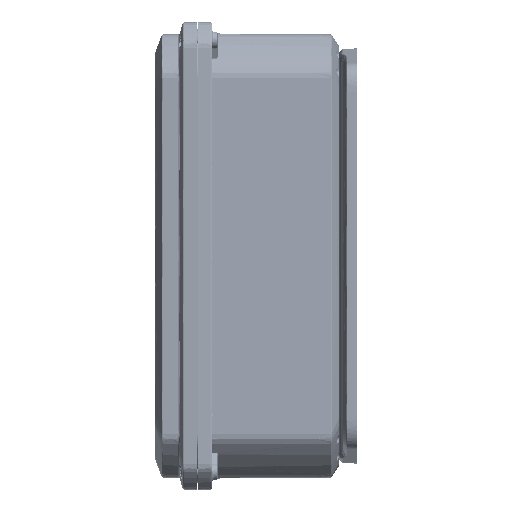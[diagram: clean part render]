
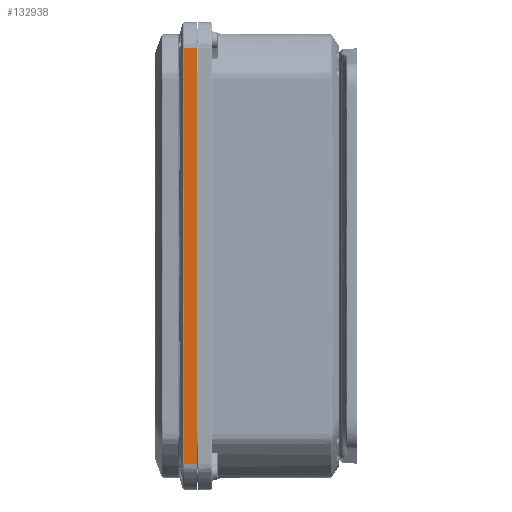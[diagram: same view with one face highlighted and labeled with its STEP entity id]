
A CAD part, left-side view. The second image highlights one B-rep face of the part: STEP entity #132938.
In plain terms, the highlighted planar face has unit normal (-0.999, 0.035, 0).
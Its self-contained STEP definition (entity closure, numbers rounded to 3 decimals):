
#1343 = CARTESIAN_POINT ( 'NONE',  ( -7.607, 0.363, 5.829 ) ) ;
#1442 = EDGE_CURVE ( 'NONE', #248380, #72285, #204699, .T. ) ;
#5534 = ORIENTED_EDGE ( 'NONE', *, *, #1442, .T. ) ;
#7018 = VECTOR ( 'NONE', #97036, 39.37 ) ;
#14049 = CARTESIAN_POINT ( 'NONE',  ( -7.62, 0., -5.89 ) ) ;
#14747 = CARTESIAN_POINT ( 'NONE',  ( -7.607, 0.363, -5.829 ) ) ;
#18008 = CARTESIAN_POINT ( 'NONE',  ( -7.62, 0., -5.89 ) ) ;
#18993 = VERTEX_POINT ( 'NONE', #59589 ) ;
#22093 = CARTESIAN_POINT ( 'NONE',  ( -7.607, 0.363, 0.982 ) ) ;
#23435 = CARTESIAN_POINT ( 'NONE',  ( -7.607, 0.363, 0. ) ) ;
#30098 = CARTESIAN_POINT ( 'NONE',  ( -7.607, 0.363, -0.982 ) ) ;
#31740 = B_SPLINE_CURVE_WITH_KNOTS ( 'NONE', 3,
 ( #74101, #191999, #239872, #1343, #242610, #212712, #238555, #255498, #52035, #112867, #211350, #22093, #23435 ),
 .UNSPECIFIED., .F., .F.,
 ( 4, 2, 1, 1, 1, 1, 1, 2, 4 ),
 ( 0., 0.001, 0.002, 0.005, 0.009, 0.019, 0.037, 0.075, 0.15 ),
 .UNSPECIFIED. ) ;
#32789 = CARTESIAN_POINT ( 'NONE',  ( -7.607, 0.363, -5.875 ) ) ;
#44514 = LINE ( 'NONE', #109484, #51443 ) ;
#51443 = VECTOR ( 'NONE', #271142, 39.37 ) ;
#52035 = CARTESIAN_POINT ( 'NONE',  ( -7.607, 0.363, 4.172 ) ) ;
#56748 = DIRECTION ( 'NONE',  ( -0.035, -0.999, 0. ) ) ;
#59589 = CARTESIAN_POINT ( 'NONE',  ( -7.607, 0.363, 5.89 ) ) ;
#66162 = EDGE_CURVE ( 'NONE', #216906, #248380, #171419, .T. ) ;
#72285 = VERTEX_POINT ( 'NONE', #218167 ) ;
#72902 = CARTESIAN_POINT ( 'NONE',  ( -7.607, 0.363, -4.663 ) ) ;
#74101 = CARTESIAN_POINT ( 'NONE',  ( -7.607, 0.363, 5.89 ) ) ;
#76966 = CARTESIAN_POINT ( 'NONE',  ( -7.607, 0.363, -5.676 ) ) ;
#79461 = CARTESIAN_POINT ( 'NONE',  ( -7.607, 0.363, -5.89 ) ) ;
#80356 = ORIENTED_EDGE ( 'NONE', *, *, #243908, .T. ) ;
#82891 = PLANE ( 'NONE',  #132419 ) ;
#96362 = CARTESIAN_POINT ( 'NONE',  ( -7.607, 0.363, -3.927 ) ) ;
#97036 = DIRECTION ( 'NONE',  ( -0.035, -0.999, 0. ) ) ;
#109484 = CARTESIAN_POINT ( 'NONE',  ( -7.62, 0., 5.89 ) ) ;
#112867 = CARTESIAN_POINT ( 'NONE',  ( -7.607, 0.363, 3.436 ) ) ;
#115751 = CARTESIAN_POINT ( 'NONE',  ( -7.607, 0.363, 0. ) ) ;
#116803 = CARTESIAN_POINT ( 'NONE',  ( -7.62, 0., -5.89 ) ) ;
#126433 = EDGE_CURVE ( 'NONE', #72285, #225141, #239752, .T. ) ;
#132419 = AXIS2_PLACEMENT_3D ( 'NONE', #18008, #269445, #56748 ) ;
#132938 = ADVANCED_FACE ( 'NONE', ( #207287 ), #82891, .T. ) ;
#139181 = CARTESIAN_POINT ( 'NONE',  ( -7.607, 0.363, -5.031 ) ) ;
#157159 = CARTESIAN_POINT ( 'NONE',  ( -7.607, 0.363, -1.963 ) ) ;
#159871 = CARTESIAN_POINT ( 'NONE',  ( -7.607, 0.363, -5.89 ) ) ;
#171419 = B_SPLINE_CURVE_WITH_KNOTS ( 'NONE', 3,
 ( #115751, #30098, #157159, #199965, #96362, #72902, #139181, #202699, #76966, #241400, #14747, #201332, #32789, #159871 ),
 .UNSPECIFIED., .F., .F.,
 ( 4, 2, 2, 1, 1, 1, 1, 2, 4 ),
 ( 0., 0.075, 0.112, 0.131, 0.14, 0.145, 0.147, 0.148, 0.15 ),
 .UNSPECIFIED. ) ;
#178642 = ORIENTED_EDGE ( 'NONE', *, *, #66162, .T. ) ;
#181887 = EDGE_CURVE ( 'NONE', #18993, #225141, #44514, .T. ) ;
#182915 = EDGE_LOOP ( 'NONE', ( #80356, #178642, #5534, #194882, #206027 ) ) ;
#191999 = CARTESIAN_POINT ( 'NONE',  ( -7.607, 0.363, 5.875 ) ) ;
#194882 = ORIENTED_EDGE ( 'NONE', *, *, #126433, .T. ) ;
#199965 = CARTESIAN_POINT ( 'NONE',  ( -7.607, 0.363, -3.436 ) ) ;
#201332 = CARTESIAN_POINT ( 'NONE',  ( -7.607, 0.363, -5.86 ) ) ;
#202699 = CARTESIAN_POINT ( 'NONE',  ( -7.607, 0.363, -5.461 ) ) ;
#203836 = CARTESIAN_POINT ( 'NONE',  ( -7.607, 0.363, 0. ) ) ;
#204699 = LINE ( 'NONE', #14049, #7018 ) ;
#206027 = ORIENTED_EDGE ( 'NONE', *, *, #181887, .F. ) ;
#207287 = FACE_OUTER_BOUND ( 'NONE', #182915, .T. ) ;
#211350 = CARTESIAN_POINT ( 'NONE',  ( -7.607, 0.363, 1.963 ) ) ;
#212712 = CARTESIAN_POINT ( 'NONE',  ( -7.607, 0.363, 5.676 ) ) ;
#215642 = VECTOR ( 'NONE', #220438, 39.37 ) ;
#216906 = VERTEX_POINT ( 'NONE', #203836 ) ;
#218167 = CARTESIAN_POINT ( 'NONE',  ( -7.62, 0., -5.89 ) ) ;
#220438 = DIRECTION ( 'NONE',  ( 0., 0., 1. ) ) ;
#225141 = VERTEX_POINT ( 'NONE', #234092 ) ;
#234092 = CARTESIAN_POINT ( 'NONE',  ( -7.62, 0., 5.89 ) ) ;
#238555 = CARTESIAN_POINT ( 'NONE',  ( -7.607, 0.363, 5.461 ) ) ;
#239752 = LINE ( 'NONE', #116803, #215642 ) ;
#239872 = CARTESIAN_POINT ( 'NONE',  ( -7.607, 0.363, 5.86 ) ) ;
#241400 = CARTESIAN_POINT ( 'NONE',  ( -7.607, 0.363, -5.783 ) ) ;
#242610 = CARTESIAN_POINT ( 'NONE',  ( -7.607, 0.363, 5.783 ) ) ;
#243908 = EDGE_CURVE ( 'NONE', #18993, #216906, #31740, .T. ) ;
#248380 = VERTEX_POINT ( 'NONE', #79461 ) ;
#255498 = CARTESIAN_POINT ( 'NONE',  ( -7.607, 0.363, 5.031 ) ) ;
#269445 = DIRECTION ( 'NONE',  ( -0.999, 0.035, 0. ) ) ;
#271142 = DIRECTION ( 'NONE',  ( -0.035, -0.999, 0. ) ) ;
